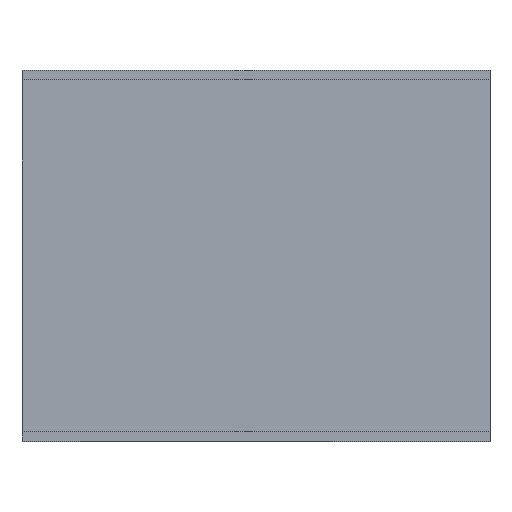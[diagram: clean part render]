
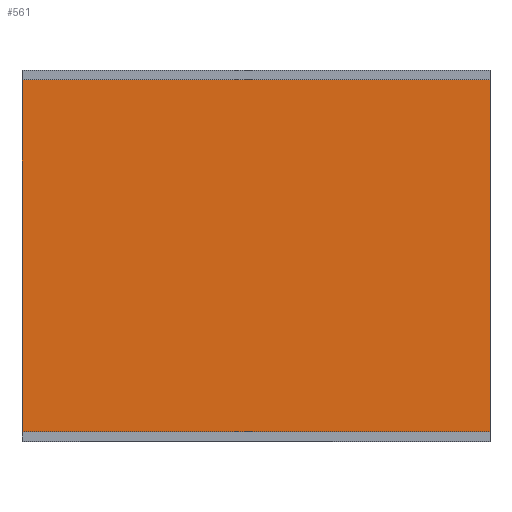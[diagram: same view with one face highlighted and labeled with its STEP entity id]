
A CAD part, top view. The second image highlights one B-rep face of the part: STEP entity #561.
In plain terms, the highlighted planar face has unit normal (0, 0, 1).
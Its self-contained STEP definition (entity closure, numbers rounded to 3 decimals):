
#54 = VERTEX_POINT('',#55);
#55 = CARTESIAN_POINT('',(0.,3.,100.));
#62 = PLANE('',#63);
#63 = AXIS2_PLACEMENT_3D('',#64,#65,#66);
#64 = CARTESIAN_POINT('',(0.,3.,0.));
#65 = DIRECTION('',(1.,0.,0.));
#66 = DIRECTION('',(0.,0.,1.));
#74 = PLANE('',#75);
#75 = AXIS2_PLACEMENT_3D('',#76,#77,#78);
#76 = CARTESIAN_POINT('',(0.,3.,0.));
#77 = DIRECTION('',(0.,1.,0.));
#78 = DIRECTION('',(0.,0.,1.));
#115 = VERTEX_POINT('',#116);
#116 = CARTESIAN_POINT('',(0.,112.,100.));
#130 = PLANE('',#131);
#131 = AXIS2_PLACEMENT_3D('',#132,#133,#134);
#132 = CARTESIAN_POINT('',(0.,112.,0.));
#133 = DIRECTION('',(0.,1.,0.));
#134 = DIRECTION('',(0.,0.,1.));
#142 = EDGE_CURVE('',#54,#115,#143,.T.);
#143 = SURFACE_CURVE('',#144,(#148,#155),.PCURVE_S1.);
#144 = LINE('',#145,#146);
#145 = CARTESIAN_POINT('',(0.,3.,100.));
#146 = VECTOR('',#147,1.);
#147 = DIRECTION('',(0.,1.,0.));
#148 = PCURVE('',#62,#149);
#149 = DEFINITIONAL_REPRESENTATION('',(#150),#154);
#150 = LINE('',#151,#152);
#151 = CARTESIAN_POINT('',(100.,0.));
#152 = VECTOR('',#153,1.);
#153 = DIRECTION('',(0.,-1.));
#154 = ( GEOMETRIC_REPRESENTATION_CONTEXT(2) 
PARAMETRIC_REPRESENTATION_CONTEXT() REPRESENTATION_CONTEXT('2D SPACE',''
  ) );
#155 = PCURVE('',#156,#161);
#156 = PLANE('',#157);
#157 = AXIS2_PLACEMENT_3D('',#158,#159,#160);
#158 = CARTESIAN_POINT('',(0.,3.,100.));
#159 = DIRECTION('',(0.,0.,1.));
#160 = DIRECTION('',(1.,0.,0.));
#161 = DEFINITIONAL_REPRESENTATION('',(#162),#166);
#162 = LINE('',#163,#164);
#163 = CARTESIAN_POINT('',(0.,0.));
#164 = VECTOR('',#165,1.);
#165 = DIRECTION('',(0.,1.));
#166 = ( GEOMETRIC_REPRESENTATION_CONTEXT(2) 
PARAMETRIC_REPRESENTATION_CONTEXT() REPRESENTATION_CONTEXT('2D SPACE',''
  ) );
#407 = EDGE_CURVE('',#54,#408,#410,.T.);
#408 = VERTEX_POINT('',#409);
#409 = CARTESIAN_POINT('',(145.,3.,100.));
#410 = SURFACE_CURVE('',#411,(#415,#422),.PCURVE_S1.);
#411 = LINE('',#412,#413);
#412 = CARTESIAN_POINT('',(0.,3.,100.));
#413 = VECTOR('',#414,1.);
#414 = DIRECTION('',(1.,0.,0.));
#415 = PCURVE('',#74,#416);
#416 = DEFINITIONAL_REPRESENTATION('',(#417),#421);
#417 = LINE('',#418,#419);
#418 = CARTESIAN_POINT('',(100.,0.));
#419 = VECTOR('',#420,1.);
#420 = DIRECTION('',(0.,1.));
#421 = ( GEOMETRIC_REPRESENTATION_CONTEXT(2) 
PARAMETRIC_REPRESENTATION_CONTEXT() REPRESENTATION_CONTEXT('2D SPACE',''
  ) );
#422 = PCURVE('',#156,#423);
#423 = DEFINITIONAL_REPRESENTATION('',(#424),#428);
#424 = LINE('',#425,#426);
#425 = CARTESIAN_POINT('',(0.,0.));
#426 = VECTOR('',#427,1.);
#427 = DIRECTION('',(1.,0.));
#428 = ( GEOMETRIC_REPRESENTATION_CONTEXT(2) 
PARAMETRIC_REPRESENTATION_CONTEXT() REPRESENTATION_CONTEXT('2D SPACE',''
  ) );
#444 = PLANE('',#445);
#445 = AXIS2_PLACEMENT_3D('',#446,#447,#448);
#446 = CARTESIAN_POINT('',(145.,3.,0.));
#447 = DIRECTION('',(1.,0.,0.));
#448 = DIRECTION('',(0.,0.,1.));
#561 = ADVANCED_FACE('',(#562),#156,.T.);
#562 = FACE_BOUND('',#563,.T.);
#563 = EDGE_LOOP('',(#564,#565,#566,#589));
#564 = ORIENTED_EDGE('',*,*,#142,.F.);
#565 = ORIENTED_EDGE('',*,*,#407,.T.);
#566 = ORIENTED_EDGE('',*,*,#567,.T.);
#567 = EDGE_CURVE('',#408,#568,#570,.T.);
#568 = VERTEX_POINT('',#569);
#569 = CARTESIAN_POINT('',(145.,112.,100.));
#570 = SURFACE_CURVE('',#571,(#575,#582),.PCURVE_S1.);
#571 = LINE('',#572,#573);
#572 = CARTESIAN_POINT('',(145.,3.,100.));
#573 = VECTOR('',#574,1.);
#574 = DIRECTION('',(0.,1.,0.));
#575 = PCURVE('',#156,#576);
#576 = DEFINITIONAL_REPRESENTATION('',(#577),#581);
#577 = LINE('',#578,#579);
#578 = CARTESIAN_POINT('',(145.,0.));
#579 = VECTOR('',#580,1.);
#580 = DIRECTION('',(0.,1.));
#581 = ( GEOMETRIC_REPRESENTATION_CONTEXT(2) 
PARAMETRIC_REPRESENTATION_CONTEXT() REPRESENTATION_CONTEXT('2D SPACE',''
  ) );
#582 = PCURVE('',#444,#583);
#583 = DEFINITIONAL_REPRESENTATION('',(#584),#588);
#584 = LINE('',#585,#586);
#585 = CARTESIAN_POINT('',(100.,0.));
#586 = VECTOR('',#587,1.);
#587 = DIRECTION('',(0.,-1.));
#588 = ( GEOMETRIC_REPRESENTATION_CONTEXT(2) 
PARAMETRIC_REPRESENTATION_CONTEXT() REPRESENTATION_CONTEXT('2D SPACE',''
  ) );
#589 = ORIENTED_EDGE('',*,*,#590,.F.);
#590 = EDGE_CURVE('',#115,#568,#591,.T.);
#591 = SURFACE_CURVE('',#592,(#596,#603),.PCURVE_S1.);
#592 = LINE('',#593,#594);
#593 = CARTESIAN_POINT('',(0.,112.,100.));
#594 = VECTOR('',#595,1.);
#595 = DIRECTION('',(1.,0.,0.));
#596 = PCURVE('',#156,#597);
#597 = DEFINITIONAL_REPRESENTATION('',(#598),#602);
#598 = LINE('',#599,#600);
#599 = CARTESIAN_POINT('',(0.,109.));
#600 = VECTOR('',#601,1.);
#601 = DIRECTION('',(1.,0.));
#602 = ( GEOMETRIC_REPRESENTATION_CONTEXT(2) 
PARAMETRIC_REPRESENTATION_CONTEXT() REPRESENTATION_CONTEXT('2D SPACE',''
  ) );
#603 = PCURVE('',#130,#604);
#604 = DEFINITIONAL_REPRESENTATION('',(#605),#609);
#605 = LINE('',#606,#607);
#606 = CARTESIAN_POINT('',(100.,0.));
#607 = VECTOR('',#608,1.);
#608 = DIRECTION('',(0.,1.));
#609 = ( GEOMETRIC_REPRESENTATION_CONTEXT(2) 
PARAMETRIC_REPRESENTATION_CONTEXT() REPRESENTATION_CONTEXT('2D SPACE',''
  ) );
